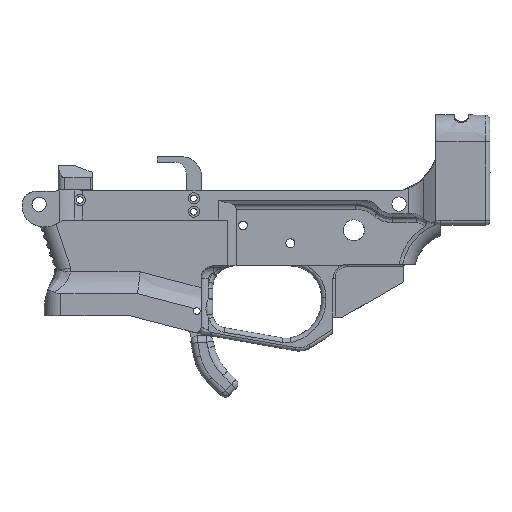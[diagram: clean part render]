
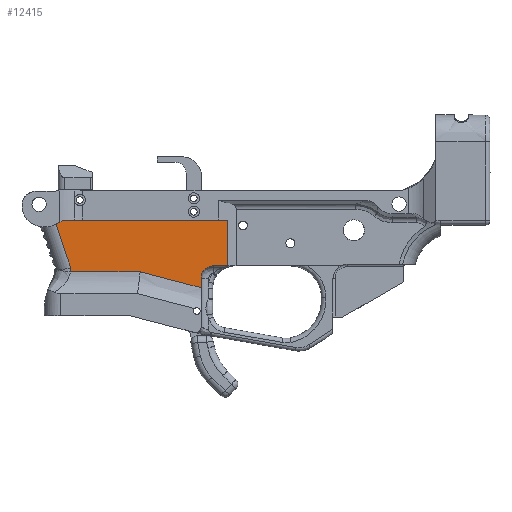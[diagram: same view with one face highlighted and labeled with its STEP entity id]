
A CAD part, left-side view. The second image highlights one B-rep face of the part: STEP entity #12415.
In plain terms, the highlighted planar face has unit normal (-1, 0, 0) as drawn and (1, 0, 0) by its records, which use the part's own axes.
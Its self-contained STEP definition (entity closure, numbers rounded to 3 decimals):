
#343=PLANE('',#13238);
#778=FACE_OUTER_BOUND('',#1501,.T.);
#1501=EDGE_LOOP('',(#9084,#9085,#9086,#9087,#9088,#9089,#9090,#9091,#9092,
#9093,#9094,#9095,#9096,#9097));
#2122=CIRCLE('',#13239,8.);
#2123=CIRCLE('',#13240,8.);
#2124=CIRCLE('',#13241,21.);
#2125=CIRCLE('',#13242,5.5);
#3305=LINE('',#33364,#4177);
#3408=LINE('',#34052,#4280);
#3409=LINE('',#34056,#4281);
#3410=LINE('',#34060,#4282);
#3411=LINE('',#34062,#4283);
#3412=LINE('',#34064,#4284);
#3413=LINE('',#34067,#4285);
#3414=LINE('',#34069,#4286);
#3415=LINE('',#34073,#4287);
#3416=LINE('',#34074,#4288);
#4177=VECTOR('',#14622,10.);
#4280=VECTOR('',#14931,10.);
#4281=VECTOR('',#14934,10.);
#4282=VECTOR('',#14937,10.);
#4283=VECTOR('',#14938,10.);
#4284=VECTOR('',#14939,10.);
#4285=VECTOR('',#14942,14.);
#4286=VECTOR('',#14943,10.);
#4287=VECTOR('',#14946,10.);
#4288=VECTOR('',#14947,10.);
#5162=VERTEX_POINT('',#33356);
#5163=VERTEX_POINT('',#33363);
#5305=VERTEX_POINT('',#34050);
#5306=VERTEX_POINT('',#34051);
#5307=VERTEX_POINT('',#34053);
#5308=VERTEX_POINT('',#34055);
#5309=VERTEX_POINT('',#34057);
#5310=VERTEX_POINT('',#34059);
#5311=VERTEX_POINT('',#34061);
#5312=VERTEX_POINT('',#34063);
#5313=VERTEX_POINT('',#34065);
#5314=VERTEX_POINT('',#34068);
#5315=VERTEX_POINT('',#34070);
#5316=VERTEX_POINT('',#34072);
#6563=EDGE_CURVE('',#5162,#5163,#3305,.T.);
#6753=EDGE_CURVE('',#5305,#5306,#3408,.T.);
#6754=EDGE_CURVE('',#5306,#5307,#2122,.T.);
#6755=EDGE_CURVE('',#5307,#5308,#3409,.T.);
#6756=EDGE_CURVE('',#5309,#5308,#2123,.F.);
#6757=EDGE_CURVE('',#5309,#5310,#3410,.T.);
#6758=EDGE_CURVE('',#5310,#5311,#3411,.T.);
#6759=EDGE_CURVE('',#5312,#5311,#3412,.T.);
#6760=EDGE_CURVE('',#5313,#5312,#2124,.T.);
#6761=EDGE_CURVE('',#5163,#5313,#3413,.T.);
#6762=EDGE_CURVE('',#5162,#5314,#3414,.F.);
#6763=EDGE_CURVE('',#5314,#5315,#2125,.F.);
#6764=EDGE_CURVE('',#5315,#5316,#3415,.F.);
#6765=EDGE_CURVE('',#5316,#5305,#3416,.T.);
#9084=ORIENTED_EDGE('',*,*,#6753,.T.);
#9085=ORIENTED_EDGE('',*,*,#6754,.T.);
#9086=ORIENTED_EDGE('',*,*,#6755,.T.);
#9087=ORIENTED_EDGE('',*,*,#6756,.F.);
#9088=ORIENTED_EDGE('',*,*,#6757,.T.);
#9089=ORIENTED_EDGE('',*,*,#6758,.T.);
#9090=ORIENTED_EDGE('',*,*,#6759,.F.);
#9091=ORIENTED_EDGE('',*,*,#6760,.F.);
#9092=ORIENTED_EDGE('',*,*,#6761,.F.);
#9093=ORIENTED_EDGE('',*,*,#6563,.F.);
#9094=ORIENTED_EDGE('',*,*,#6762,.T.);
#9095=ORIENTED_EDGE('',*,*,#6763,.T.);
#9096=ORIENTED_EDGE('',*,*,#6764,.T.);
#9097=ORIENTED_EDGE('',*,*,#6765,.T.);
#12415=ADVANCED_FACE('',(#778),#343,.F.);
#13238=AXIS2_PLACEMENT_3D('',#34049,#14929,#14930);
#13239=AXIS2_PLACEMENT_3D('',#34054,#14932,#14933);
#13240=AXIS2_PLACEMENT_3D('',#34058,#14935,#14936);
#13241=AXIS2_PLACEMENT_3D('',#34066,#14940,#14941);
#13242=AXIS2_PLACEMENT_3D('',#34071,#14944,#14945);
#14622=DIRECTION('',(0.,-0.967,0.253));
#14929=DIRECTION('center_axis',(-1.,0.,0.));
#14930=DIRECTION('ref_axis',(0.,1.,0.));
#14931=DIRECTION('',(0.,-1.,0.));
#14932=DIRECTION('center_axis',(1.,0.,0.));
#14933=DIRECTION('ref_axis',(0.,-0.995,-0.105));
#14934=DIRECTION('',(0.,-0.828,-0.56));
#14935=DIRECTION('center_axis',(-1.,0.,0.));
#14936=DIRECTION('ref_axis',(0.,0.995,0.105));
#14937=DIRECTION('',(0.,0.908,-0.418));
#14938=DIRECTION('',(0.,0.324,-0.946));
#14939=DIRECTION('',(0.,-0.316,0.949));
#14940=DIRECTION('center_axis',(1.,0.,0.));
#14941=DIRECTION('ref_axis',(0.,0.991,-0.136));
#14942=DIRECTION('',(0.,-1.,0.));
#14943=DIRECTION('',(0.,0.,-1.));
#14944=DIRECTION('center_axis',(1.,0.,0.));
#14945=DIRECTION('ref_axis',(0.,0.,1.));
#14946=DIRECTION('',(0.,-1.,0.));
#14947=DIRECTION('',(0.,0.,1.));
#33356=CARTESIAN_POINT('',(15.24,-87.601,-83.508));
#33363=CARTESIAN_POINT('',(15.24,-114.977,-76.351));
#33364=CARTESIAN_POINT('',(15.24,-87.601,-83.508));
#34049=CARTESIAN_POINT('Origin',(15.24,-92.706,-51.754));
#34050=CARTESIAN_POINT('',(15.24,-75.638,-53.055));
#34051=CARTESIAN_POINT('',(15.24,-147.654,-53.055));
#34052=CARTESIAN_POINT('',(15.24,-146.465,-53.055));
#34053=CARTESIAN_POINT('',(15.24,-152.138,-54.429));
#34054=CARTESIAN_POINT('Origin',(15.24,-147.654,-61.055));
#34055=CARTESIAN_POINT('',(15.24,-152.508,-54.68));
#34056=CARTESIAN_POINT('',(15.24,-132.342,-41.032));
#34057=CARTESIAN_POINT('',(15.24,-152.841,-54.893));
#34058=CARTESIAN_POINT('Origin',(15.24,-156.992,-48.055));
#34059=CARTESIAN_POINT('',(15.24,-152.83,-54.898));
#34060=CARTESIAN_POINT('',(15.24,-128.628,-66.04));
#34061=CARTESIAN_POINT('',(15.24,-152.807,-54.965));
#34062=CARTESIAN_POINT('',(15.24,-152.83,-54.898));
#34063=CARTESIAN_POINT('',(15.24,-146.241,-74.665));
#34064=CARTESIAN_POINT('',(15.24,-148.139,-68.971));
#34065=CARTESIAN_POINT('',(15.24,-146.357,-76.351));
#34066=CARTESIAN_POINT('Origin',(15.24,-167.232,-74.068));
#34067=CARTESIAN_POINT('',(15.24,-141.61,-76.351));
#34068=CARTESIAN_POINT('',(15.24,-87.601,-79.152));
#34069=CARTESIAN_POINT('',(15.24,-87.601,-75.789));
#34070=CARTESIAN_POINT('',(15.24,-82.101,-73.652));
#34071=CARTESIAN_POINT('Origin',(15.24,-82.101,-79.152));
#34072=CARTESIAN_POINT('',(15.24,-75.637,-73.652));
#34073=CARTESIAN_POINT('',(15.24,-103.734,-73.652));
#34074=CARTESIAN_POINT('',(15.24,-75.639,-26.933));
